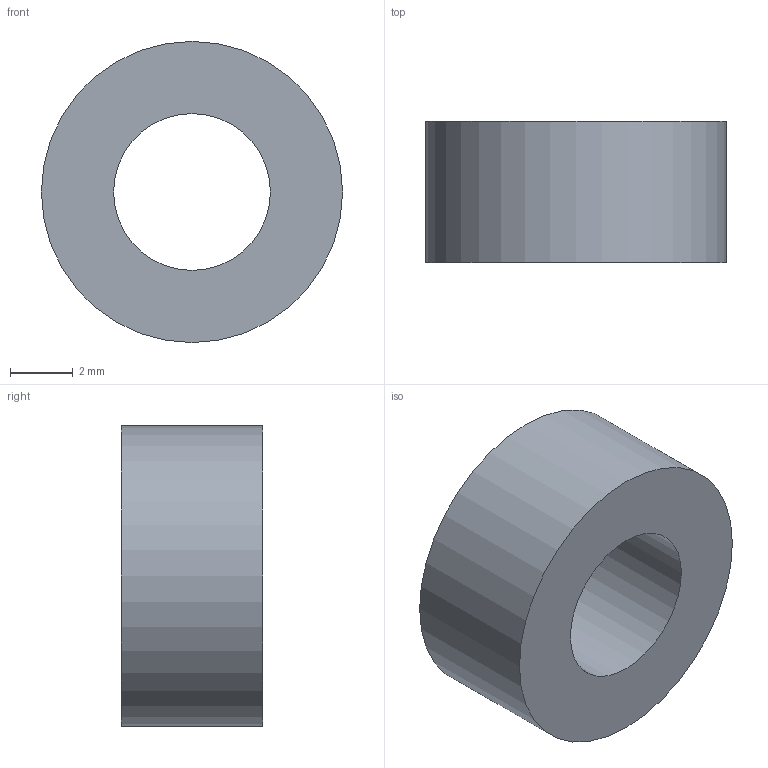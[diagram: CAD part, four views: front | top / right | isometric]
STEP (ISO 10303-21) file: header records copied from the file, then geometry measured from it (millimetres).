
FILE_DESCRIPTION(('Open CASCADE Model'),'2;1');
FILE_NAME('Open CASCADE Shape Model','2026-10-18T02:27:58',('Author'),( 'Open CASCADE'),'Open CASCADE STEP processor 7.9','Open CASCADE 7.9' ,'Unknown');
FILE_SCHEMA(('AUTOMOTIVE_DESIGN { 1 0 10303 214 1 1 1 1 }'));
Length unit declared in the file: millimetre
Products named in the file (1): Open CASCADE STEP translator 7.9 7
Bounding box: 9.6 x 4.5 x 9.6 mm (x, y, z)
Volume: 237.4 mm3; surface area: 311.9 mm2
Topology: 1 solids, 1 shells, 4 faces, 6 edges, 4 vertices
Faces by surface type: cylinder 2, plane 2
Full cylindrical faces by diameter (mm): 5 x1, 9.6 x1
Entity records: 192 total; most frequent: CARTESIAN_POINT 39, DIRECTION 30, ORIENTED_EDGE 12, PCURVE 12, DEFINITIONAL_REPRESENTATION 12, LINE 10, VECTOR 10, AXIS2_PLACEMENT_3D 9
